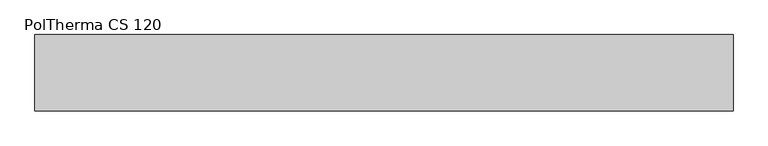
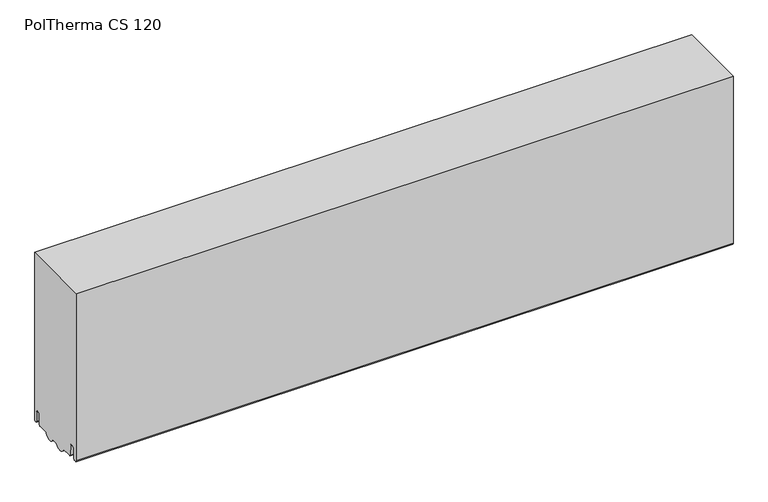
"""IFC4 building model written with IfcOpenShell, lengths in millimetres: plate geometry, Europanels_Poltherma CS_Hz : PolTherma CS 120."""

from ifc_helpers import new_model, si_unit, point, frame, frame_2d, origin, place, context, project, spatial, polyline, circle_curve, trimmed, segment, composite_curve, outline, extrude, source, transform, mapped, element, save


def poltherma_cs_120_0cfae51c(model_context):
    return source(origin(), model_context, "Body", "SweptSolid", [
        extrude(outline(composite_curve([segment(polyline([(-60.0, 3.4988953), (-60.0, 300.0), (60.0, 300.0), (60.0, 3.8623872)]), True, "CONTINUOUS"), segment(trimmed(circle_curve(frame_2d((57.6319739, 3.8623872)), 2.3680261), [point((60.0, 3.8623872))], [point((55.2674058, 3.7344618))], False, "CARTESIAN"), True, "CONTINUOUS"), segment(polyline([(55.2674058, 3.7344618), (54.3293468, 21.0735079)]), True, "CONTINUOUS"), segment(trimmed(circle_curve(frame_2d((51.0496929, 20.8960755)), 3.28445), [point((54.3293468, 21.0735079))], [point((47.7706872, 21.085108))], True, "CARTESIAN"), True, "CONTINUOUS"), segment(polyline([(47.7706872, 21.085108), (46.7366349, 3.1481762)]), True, "CONTINUOUS"), segment(trimmed(circle_curve(frame_2d((44.9895357, 3.2488953)), 1.75), [point((46.7366349, 3.1481762))], [point((44.9895357, 1.4988953))], False, "CARTESIAN"), True, "CONTINUOUS"), segment(polyline([(44.9895357, 1.4988953), (27.5267156, 1.4988953)]), True, "CONTINUOUS"), segment(trimmed(circle_curve(frame_2d((17.7, 3.3524487)), 10.0), [point((27.5267156, 1.4988953))], [point((10.2, -3.2619295))], False, "CARTESIAN"), True, "CONTINUOUS"), segment(trimmed(circle_curve(frame_2d((2.7, -9.8763078)), 10.0), [point((10.2, -3.2619295))], [point((-4.8, -3.2619295))], True, "CARTESIAN"), True, "CONTINUOUS"), segment(trimmed(circle_curve(frame_2d((-12.3, 3.3524487)), 10.0), [point((-4.8, -3.2619295))], [point((-22.1267156, 1.4988953))], False, "CARTESIAN"), True, "CONTINUOUS"), segment(polyline([(-22.1267156, 1.4988953), (-40.5507777, 1.4988953)]), True, "CONTINUOUS"), segment(trimmed(circle_curve(frame_2d((-40.5507777, 3.2988953)), 1.8), [point((-40.5507777, 1.4988953))], [point((-42.3477941, 3.1952985))], False, "CARTESIAN"), True, "CONTINUOUS"), segment(polyline([(-42.3477941, 3.1952985), (-43.3842966, 21.1747334)]), True, "CONTINUOUS"), segment(trimmed(circle_curve(frame_2d((-46.3793238, 21.0020721)), 3.0), [point((-43.3842966, 21.1747334))], [point((-46.3793238, 24.0020721))], True, "CARTESIAN"), True, "CONTINUOUS"), segment(polyline([(-46.3793238, 24.0020721), (-49.3209015, 24.0020721)]), True, "CONTINUOUS"), segment(trimmed(circle_curve(frame_2d((-49.3209015, 21.0020721)), 3.0), [point((-49.3209015, 24.0020721))], [point((-52.3165207, 21.1641379))], True, "CARTESIAN"), True, "CONTINUOUS"), segment(polyline([(-52.3165207, 21.1641379), (-53.2780726, 3.3908514)]), True, "CONTINUOUS"), segment(trimmed(circle_curve(frame_2d((-55.2751521, 3.4988953)), 2.0), [point((-53.2780726, 3.3908514))], [point((-55.2751521, 1.4988953))], False, "CARTESIAN"), True, "CONTINUOUS"), segment(polyline([(-55.2751521, 1.4988953), (-58.0, 1.4988953)]), True, "CONTINUOUS"), segment(trimmed(circle_curve(frame_2d((-58.0, 3.4988953)), 2.0), [point((-58.0, 1.4988953))], [point((-60.0, 3.4988953))], False, "CARTESIAN"), True, "CONTINUOUS")], self_intersect=False)), frame((-550.0, 0.0, 0.0), z_axis=(1.0, 0.0, 0.0), x_axis=(0.0, 1.0, 0.0)), (0.0, 0.0, 1.0), 1100.0),
    ])


if __name__ == "__main__":
    model = new_model("IFC4")
    model_context = context("Model", 3, world=origin())
    ifc_project = project(units=[si_unit("LENGTHUNIT", "METRE", prefix="MILLI")], contexts=[model_context])
    site = spatial("IfcSite", under=ifc_project)
    building = spatial("IfcBuilding", under=site)
    placement = place(None, origin())
    poltherma_cs_120_shape = poltherma_cs_120_0cfae51c(model_context)
    element("IfcPlate", 1, ObjectType="Europanels_Poltherma CS_Hz : PolTherma CS 120", at=placement, inside=building, context=model_context, shape_type="MappedRepresentation", body=[
        mapped(poltherma_cs_120_shape, transform((0.0, 0.0, 0.0), x_axis=(1.0, 0.0, 0.0), y_axis=(0.0, 1.0, 0.0), z_axis=(0.0, 0.0, 1.0))),
    ])
    save(model, "model.ifc")
